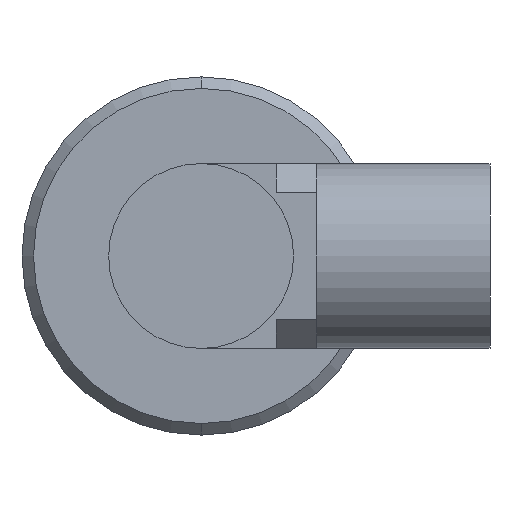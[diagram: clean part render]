
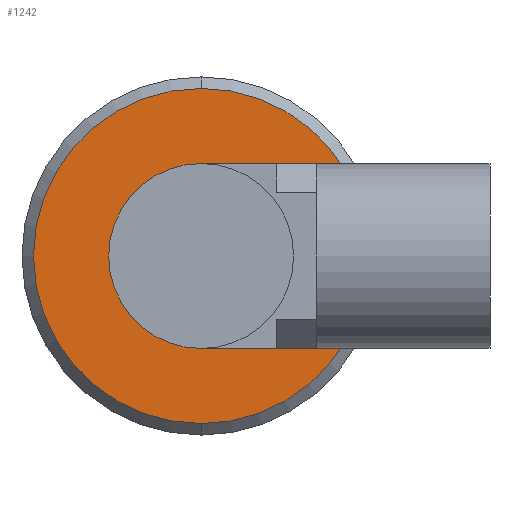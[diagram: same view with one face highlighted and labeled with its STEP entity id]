
A CAD part, left-side view. The second image highlights one B-rep face of the part: STEP entity #1242.
In plain terms, the highlighted planar face has unit normal (-1, 0, 0).
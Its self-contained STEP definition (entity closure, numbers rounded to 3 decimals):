
#84 = DIRECTION ( 'NONE',  ( 0., 0., 1. ) ) ;
#125 = EDGE_CURVE ( 'NONE', #539, #1093, #553, .T. ) ;
#146 = DIRECTION ( 'NONE',  ( -1., 0., 0. ) ) ;
#246 = CIRCLE ( 'NONE', #987, 8. ) ;
#268 = CARTESIAN_POINT ( 'NONE',  ( 66.8, 0., 0. ) ) ;
#270 = CARTESIAN_POINT ( 'NONE',  ( 66.8, 14.5, 0. ) ) ;
#413 = DIRECTION ( 'NONE',  ( 0., 0., 1. ) ) ;
#435 = EDGE_LOOP ( 'NONE', ( #633, #1417 ) ) ;
#454 = EDGE_LOOP ( 'NONE', ( #1038, #466 ) ) ;
#466 = ORIENTED_EDGE ( 'NONE', *, *, #125, .T. ) ;
#488 = AXIS2_PLACEMENT_3D ( 'NONE', #268, #1204, #413 ) ;
#524 = CARTESIAN_POINT ( 'NONE',  ( 66.8, 0., -8. ) ) ;
#525 = VERTEX_POINT ( 'NONE', #524 ) ;
#539 = VERTEX_POINT ( 'NONE', #913 ) ;
#553 = CIRCLE ( 'NONE', #785, 14.5 ) ;
#563 = FACE_OUTER_BOUND ( 'NONE', #454, .T. ) ;
#627 = CIRCLE ( 'NONE', #488, 14.5 ) ;
#633 = ORIENTED_EDGE ( 'NONE', *, *, #1751, .F. ) ;
#682 = VERTEX_POINT ( 'NONE', #1753 ) ;
#774 = PLANE ( 'NONE',  #1270 ) ;
#785 = AXIS2_PLACEMENT_3D ( 'NONE', #949, #146, #1081 ) ;
#805 = CARTESIAN_POINT ( 'NONE',  ( 66.8, 0., 0. ) ) ;
#894 = DIRECTION ( 'NONE',  ( -1., 0., 0. ) ) ;
#913 = CARTESIAN_POINT ( 'NONE',  ( 66.8, 0., 14.5 ) ) ;
#935 = DIRECTION ( 'NONE',  ( 0., 0., 1. ) ) ;
#949 = CARTESIAN_POINT ( 'NONE',  ( 66.8, 0., 0. ) ) ;
#987 = AXIS2_PLACEMENT_3D ( 'NONE', #1712, #894, #84 ) ;
#1038 = ORIENTED_EDGE ( 'NONE', *, *, #1756, .T. ) ;
#1081 = DIRECTION ( 'NONE',  ( 0., 0., 1. ) ) ;
#1093 = VERTEX_POINT ( 'NONE', #1239 ) ;
#1168 = EDGE_CURVE ( 'NONE', #525, #682, #246, .T. ) ;
#1204 = DIRECTION ( 'NONE',  ( -1., 0., 0. ) ) ;
#1207 = DIRECTION ( 'NONE',  ( 1., 0., 0. ) ) ;
#1239 = CARTESIAN_POINT ( 'NONE',  ( 66.8, 0., -14.5 ) ) ;
#1242 = ADVANCED_FACE ( 'NONE', ( #1560, #563 ), #774, .F. ) ;
#1270 = AXIS2_PLACEMENT_3D ( 'NONE', #270, #1207, #1480 ) ;
#1325 = CIRCLE ( 'NONE', #1497, 8. ) ;
#1417 = ORIENTED_EDGE ( 'NONE', *, *, #1168, .F. ) ;
#1480 = DIRECTION ( 'NONE',  ( 0., 0., -1. ) ) ;
#1497 = AXIS2_PLACEMENT_3D ( 'NONE', #805, #1754, #935 ) ;
#1560 = FACE_BOUND ( 'NONE', #435, .T. ) ;
#1712 = CARTESIAN_POINT ( 'NONE',  ( 66.8, 0., 0. ) ) ;
#1751 = EDGE_CURVE ( 'NONE', #682, #525, #1325, .T. ) ;
#1753 = CARTESIAN_POINT ( 'NONE',  ( 66.8, 0., 8. ) ) ;
#1754 = DIRECTION ( 'NONE',  ( -1., 0., 0. ) ) ;
#1756 = EDGE_CURVE ( 'NONE', #1093, #539, #627, .T. ) ;
